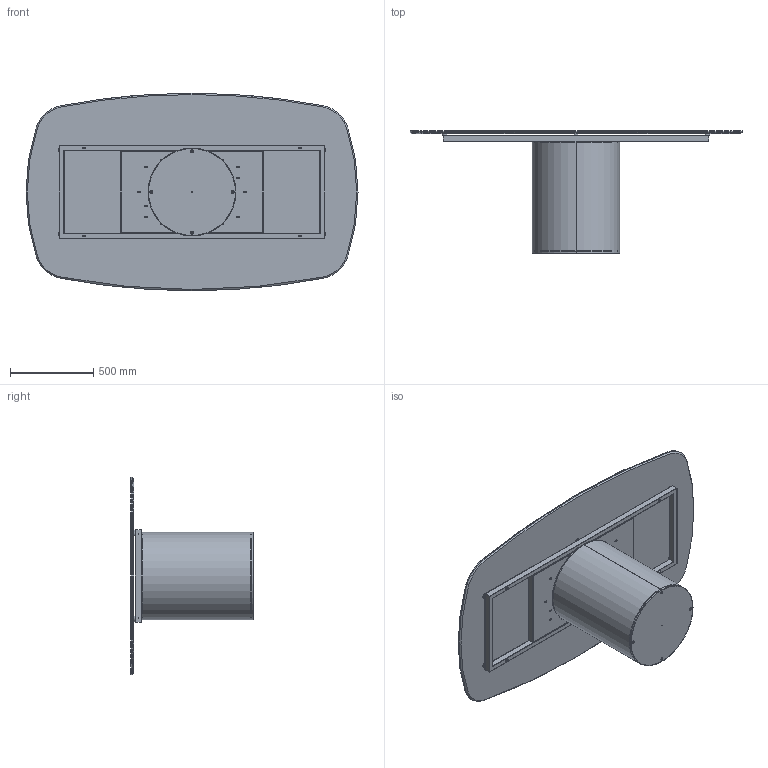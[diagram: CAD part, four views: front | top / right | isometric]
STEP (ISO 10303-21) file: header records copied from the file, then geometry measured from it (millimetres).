
FILE_DESCRIPTION (( 'STEP AP203' ), '1' );
FILE_NAME ('CI40C.STEP', '2024-08-08T07:24:22', ( '' ), ( '' ), 'SwSTEP 2.0', 'SolidWorks 2022', '' );
FILE_SCHEMA (( 'CONFIG_CONTROL_DESIGN' ));
Length unit declared in the file: millimetre
Products named in the file (11): K4XCMXX-00-Piani Sagomati in ceramica_2000 x 1190; 434070-00-PIEDINO TPV GOMMA NERO D. 30x8max18_filo estetico; M8xXXmm_hex_M8X20mm; CI40C; COLLO TELAIO UNIVERSALE TTAV01 CON FERRAMENTA_MTG TOP CRISTALLO VERNICIATO-CERAMICA; TTAV01-05-TELAIO UNIVERSALE X TAVOLI 180 240cm; C2B000000_01-00-struttura cilindro D.530mm; TTAV01_01-05-TELAIO UNIVERSALE X TAVOLI 180 240cm; C2B000000-03-CILINDRO BASE D.530mm_Normale; C2B000000_02-01-ZAVORRA IN FERRO D.530mm; TTAV01_02-05-VASSOIO IRRIGIDIMENTO TELAIO UNIVERSALE
Assembly tree (18 placements, depth 4):
  CI40C
    C2B000000-03-CILINDRO BASE D.530mm_Normale
      C2B000000_01-00-struttura cilindro D.530mm
      C2B000000_02-01-ZAVORRA IN FERRO D.530mm
      M8xXXmm_hex_M8X20mm  x4
    COLLO TELAIO UNIVERSALE TTAV01 CON FERRAMENTA_MTG TOP CRISTALLO VERNICIATO-CERAMICA
      TTAV01-05-TELAIO UNIVERSALE X TAVOLI 180 240cm
        TTAV01_02-05-VASSOIO IRRIGIDIMENTO TELAIO UNIVERSALE
        TTAV01_01-05-TELAIO UNIVERSALE X TAVOLI 180 240cm
      434070-00-PIEDINO TPV GOMMA NERO D. 30x8max18_filo estetico  x6
    K4XCMXX-00-Piani Sagomati in ceramica_2000 x 1190
Bounding box: 2000 x 736 x 1190 mm (x, y, z)
Volume: 42907116.9 mm3; surface area: 13774177.9 mm2
Topology: 25 solids, 25 shells, 589 faces, 1373 edges, 820 vertices
Faces by surface type: plane 254, cylinder 240, cone 41, torus 32, sphere 22
Entity records: 14232 total; most frequent: DIRECTION 2381, CARTESIAN_POINT 2177, ORIENTED_EDGE 2102, EDGE_CURVE 1051, AXIS2_PLACEMENT_3D 887, VERTEX_POINT 651, LINE 607, VECTOR 607
